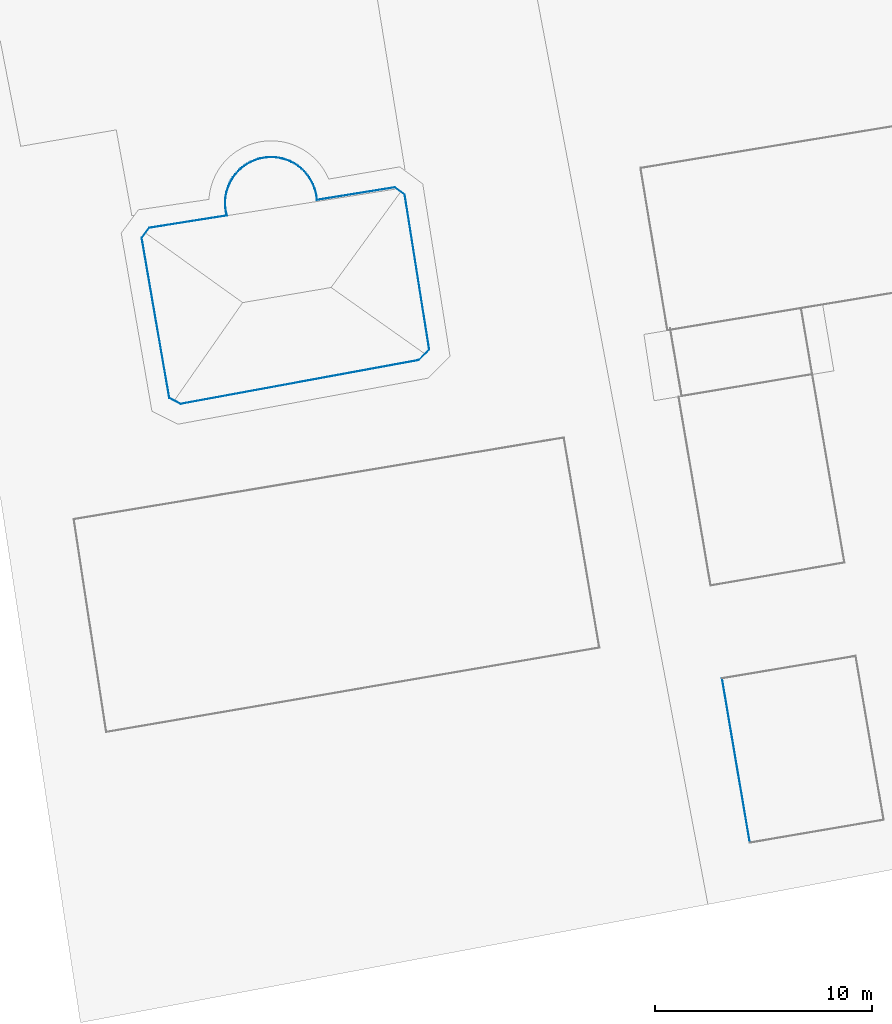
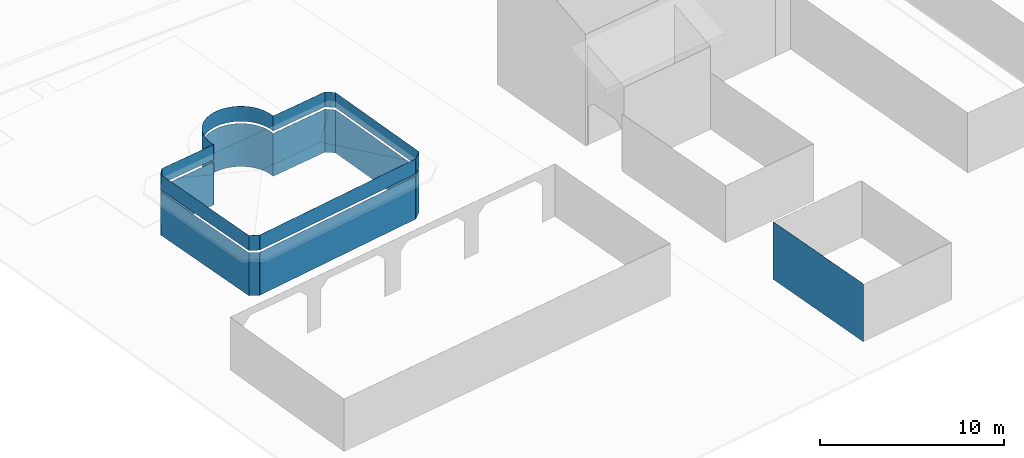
# One storey, part 18 of 75: 11 walls, 10 openings.
"""IFC2X3 building model written with IfcOpenShell, lengths in metres."""

from ifc_helpers import new_model, entity, si_unit, converted_unit, derived_unit, direction, frame, frame_2d, origin, place, context, subcontext, project, spatial, polyline, circle_curve, parameter, trimmed, segment, composite_curve, outline, extrude, clip, bounded_halfspace, material, layer, layer_set, layer_usage, type_object, element, save


model = new_model("IFC2X3")

# Units and contexts
model_context = context("Model", 3, precision=1e-05, world=origin(), true_north=direction((6.123031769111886e-17, 1.0)))
body_context = subcontext(model_context, "Body", "Model", "MODEL_VIEW")
ifc_project = project(units=[si_unit("LENGTHUNIT", "METRE"), si_unit("AREAUNIT", "SQUARE_METRE"), si_unit("VOLUMEUNIT", "CUBIC_METRE"), converted_unit("PLANEANGLEUNIT", "DEGREE", entity("IfcRatioMeasure", 0.017453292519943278), si_unit("PLANEANGLEUNIT", "RADIAN"), dimensions=[0, 0, 0, 0, 0, 0, 0]), si_unit("MASSUNIT", "GRAM", prefix="KILO"), derived_unit("MASSDENSITYUNIT", [(si_unit("MASSUNIT", "GRAM", prefix="KILO"), 1), (si_unit("LENGTHUNIT", "METRE"), -3)]), derived_unit("IONCONCENTRATIONUNIT", [(si_unit("MASSUNIT", "GRAM", prefix="KILO"), 1), (si_unit("LENGTHUNIT", "METRE"), -3)]), derived_unit("MOMENTOFINERTIAUNIT", [(si_unit("LENGTHUNIT", "METRE"), 4)]), si_unit("TIMEUNIT", "SECOND"), si_unit("FREQUENCYUNIT", "HERTZ"), si_unit("THERMODYNAMICTEMPERATUREUNIT", "DEGREE_CELSIUS"), derived_unit("THERMALTRANSMITTANCEUNIT", [(si_unit("MASSUNIT", "GRAM", prefix="KILO"), 1), (si_unit("THERMODYNAMICTEMPERATUREUNIT", "KELVIN"), -1), (si_unit("TIMEUNIT", "SECOND"), -3)]), derived_unit("THERMALCONDUCTANCEUNIT", [(si_unit("MASSUNIT", "GRAM", prefix="KILO"), 1), (si_unit("THERMODYNAMICTEMPERATUREUNIT", "KELVIN"), -1), (si_unit("TIMEUNIT", "SECOND"), -3), (si_unit("LENGTHUNIT", "METRE"), 1)]), derived_unit("VOLUMETRICFLOWRATEUNIT", [(si_unit("LENGTHUNIT", "METRE"), 3), (si_unit("TIMEUNIT", "SECOND"), -1)]), derived_unit("MASSFLOWRATEUNIT", [(si_unit("MASSUNIT", "GRAM", prefix="KILO"), 1), (si_unit("TIMEUNIT", "SECOND"), -1)]), derived_unit("ROTATIONALFREQUENCYUNIT", [(si_unit("TIMEUNIT", "SECOND"), -1)]), si_unit("ELECTRICCURRENTUNIT", "AMPERE"), si_unit("ELECTRICVOLTAGEUNIT", "VOLT"), si_unit("POWERUNIT", "WATT"), si_unit("FORCEUNIT", "NEWTON", prefix="KILO"), si_unit("ILLUMINANCEUNIT", "LUX"), si_unit("LUMINOUSFLUXUNIT", "LUMEN"), si_unit("LUMINOUSINTENSITYUNIT", "CANDELA"), derived_unit("USERDEFINED", [(si_unit("MASSUNIT", "GRAM", prefix="KILO"), -1), (si_unit("LENGTHUNIT", "METRE"), -2), (si_unit("TIMEUNIT", "SECOND"), 3), (si_unit("LUMINOUSFLUXUNIT", "LUMEN"), 1)]), derived_unit("USERDEFINED", [(si_unit("MASSUNIT", "GRAM", prefix="KILO"), 1), (si_unit("TIMEUNIT", "SECOND"), -3), (si_unit("LENGTHUNIT", "METRE"), 3), (si_unit("ELECTRICCURRENTUNIT", "AMPERE"), -2)]), derived_unit("SOUNDPOWERUNIT", [(si_unit("MASSUNIT", "GRAM", prefix="KILO"), 1), (si_unit("TIMEUNIT", "SECOND"), -3), (si_unit("LENGTHUNIT", "METRE"), 2)]), derived_unit("SOUNDPRESSUREUNIT", [(si_unit("MASSUNIT", "GRAM", prefix="KILO"), 1), (si_unit("LENGTHUNIT", "METRE"), -1), (si_unit("TIMEUNIT", "SECOND"), -2)]), derived_unit("LINEARVELOCITYUNIT", [(si_unit("LENGTHUNIT", "METRE"), 1), (si_unit("TIMEUNIT", "SECOND"), -1)]), si_unit("PRESSUREUNIT", "PASCAL"), derived_unit("USERDEFINED", [(si_unit("MASSUNIT", "GRAM", prefix="KILO"), 1), (si_unit("LENGTHUNIT", "METRE"), -2), (si_unit("TIMEUNIT", "SECOND"), -2)]), derived_unit("LINEARFORCEUNIT", [(si_unit("MASSUNIT", "GRAM", prefix="KILO"), 1), (si_unit("TIMEUNIT", "SECOND"), -2)]), derived_unit("PLANARFORCEUNIT", [(si_unit("MASSUNIT", "GRAM", prefix="KILO"), 1), (si_unit("LENGTHUNIT", "METRE"), -1), (si_unit("TIMEUNIT", "SECOND"), -2)]), derived_unit("SPECIFICHEATCAPACITYUNIT", [(si_unit("THERMODYNAMICTEMPERATUREUNIT", "KELVIN"), -1), (si_unit("LENGTHUNIT", "METRE"), 2), (si_unit("TIMEUNIT", "SECOND"), -2)]), derived_unit("HEATINGVALUEUNIT", [(si_unit("LENGTHUNIT", "METRE"), 2), (si_unit("TIMEUNIT", "SECOND"), -2)]), derived_unit("VAPORPERMEABILITYUNIT", [(si_unit("LENGTHUNIT", "METRE"), -1), (si_unit("TIMEUNIT", "SECOND"), 1)]), derived_unit("DYNAMICVISCOSITYUNIT", [(si_unit("MASSUNIT", "GRAM", prefix="KILO"), 1), (si_unit("TIMEUNIT", "SECOND"), -1), (si_unit("LENGTHUNIT", "METRE"), -1)]), derived_unit("THERMALEXPANSIONCOEFFICIENTUNIT", [(si_unit("THERMODYNAMICTEMPERATUREUNIT", "KELVIN"), -1)]), derived_unit("MODULUSOFELASTICITYUNIT", [(si_unit("MASSUNIT", "GRAM", prefix="KILO"), 1), (si_unit("LENGTHUNIT", "METRE"), -1), (si_unit("TIMEUNIT", "SECOND"), -2)]), derived_unit("ISOTHERMALMOISTURECAPACITYUNIT", [(si_unit("LENGTHUNIT", "METRE"), 3), (si_unit("MASSUNIT", "GRAM", prefix="KILO"), -1)]), derived_unit("MOISTUREDIFFUSIVITYUNIT", [(si_unit("TIMEUNIT", "SECOND"), -1), (si_unit("LENGTHUNIT", "METRE"), 2)])], contexts=[model_context])

# Site, building, storey
site_placement = place(None, origin())
site = spatial("IfcSite", under=ifc_project, at=site_placement, Name="Default", CompositionType="ELEMENT")
building_placement = place(site_placement, origin())
building = spatial("IfcBuilding", under=site, at=building_placement, Name="Projeto", CompositionType="ELEMENT")
storey_placement = place(building_placement, origin())
storey = spatial("IfcBuildingStorey", under=building, at=storey_placement, Name="Nível 1", CompositionType="ELEMENT", Elevation=0.0)

# Wall
ifc_material = material(Name="Metal")
ifc_layer = layer(ifc_material, 0.01)
ifc_layer_set = layer_set([ifc_layer], Name="Parede básica:JA_Aluminio")
ifc_layer_usage_1 = layer_usage(ifc_layer_set, "AXIS2", "NEGATIVE", 0.005)
wall_type = type_object("IfcWallType", Name="Parede básica:JA_Aluminio", PredefinedType="STANDARD", material=ifc_layer_set)
wall_1_placement = place(storey_placement, frame((-44.55042520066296, -77.18336370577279, -0.1), z_axis=(0.0, 0.0, 1.0), x_axis=(-0.16684340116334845, 0.9859834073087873, 0.0)))
element("IfcWallStandardCase", 1, at=wall_1_placement, inside=storey, type_object=wall_type, material=ifc_layer_usage_1, Name="Parede básica:JA_Aluminio", ObjectType="Parede básica:JA_Aluminio", context=body_context, shape_type="Clipping", body=[
    clip(clip(clip(extrude(outline(polyline([(7.685062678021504, -0.004999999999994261), (7.685090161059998, 0.005000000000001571), (0.0, 0.0049999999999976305), (1.9177699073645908e-05, -0.0049999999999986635), (0.010019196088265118, -0.004999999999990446), (7.675062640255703, -0.0049999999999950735), (7.685062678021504, -0.004999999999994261)])), origin(), (0.0, 0.0, 1.0), 3.8479557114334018), bounded_halfspace(frame((0.1519078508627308, -0.0049999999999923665, 3.847955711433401), z_axis=(0.004235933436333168, 0.25878437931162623, 0.9659258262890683), x_axis=(-0.9998660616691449, 0.01636639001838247, 0.0)), False, frame((0.1519078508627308, -0.0049999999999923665, 3.847955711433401)), polyline([(0.0, 0.0), (7.4939146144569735, 0.0), (7.504107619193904, 0.009999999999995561), (-0.009856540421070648, 0.009999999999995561), (0.0, 0.0)]))), bounded_halfspace(frame((1.9177699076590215e-05, -0.005000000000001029, 3.8072573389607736), z_axis=(-0.25881856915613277, -0.0004963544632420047, 0.9659258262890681), x_axis=(0.0019177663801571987, -0.9999981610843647, 0.0)), False, frame((1.9177699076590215e-05, -0.005000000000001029, 3.8072573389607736)), polyline([(0.0, 0.0), (0.010000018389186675, 0.0), (0.1518886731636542, 0.0), (0.14203213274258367, 0.010000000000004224), (-1.917769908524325e-05, 0.009999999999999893), (0.0, 0.0)]))), bounded_halfspace(frame((7.645822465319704, -0.004999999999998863, 3.815092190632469), z_axis=(0.25881806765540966, -0.0007113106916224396, 0.9659258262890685), x_axis=(0.00274829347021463, 0.9999962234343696, 0.0)), False, frame((7.645822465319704, -0.004999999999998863, 3.815092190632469)), polyline([(0.0, 0.0), (0.02924017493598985, 0.0), (0.03924021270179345, 0.0), (0.03926769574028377, 0.009999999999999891), (0.010193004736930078, 0.010000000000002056), (0.0, 0.0)]))),
])

# Wall, opening
wall_2_placement = place(storey_placement, frame((-72.54206846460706, -49.344328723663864, -0.1), z_axis=(0.0, 0.0, 1.0), x_axis=(0.16991333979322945, -0.9854590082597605, 0.0)))
wall_2 = element("IfcWallStandardCase", 2, at=wall_2_placement, inside=storey, type_object=wall_type, material=ifc_layer_usage_1, Name="Parede básica:JA_Aluminio", ObjectType="Parede básica:JA_Aluminio", context=body_context, shape_type="SweptSolid", body=[
    extrude(outline(polyline([(7.486000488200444, -0.005000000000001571), (7.493432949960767, 0.004999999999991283), (7.480973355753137, 0.0049999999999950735), (0.0, 0.004999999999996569), (0.009579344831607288, -0.00500000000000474), (7.486000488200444, -0.005000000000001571)])), origin(), (0.0, 0.0, 1.0), 3.9999999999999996),
])
opening_1_placement = place(storey_placement, frame((-72.54206846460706, -49.344328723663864, -0.1), z_axis=(0.0, 0.0, 1.0), x_axis=(0.16991333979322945, -0.9854590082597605, 0.0)))
element("IfcOpeningElement", 3, at=opening_1_placement, cuts=wall_2, Name="Parede básica:JA_Aluminio:1", ObjectType="Opening", context=body_context, shape_type="SweptSolid", body=[
    extrude(outline(polyline([(-4.484417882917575, -0.005999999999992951), (2.992003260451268, -0.005999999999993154), (2.999435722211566, 0.004000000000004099), (2.9869761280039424, 0.0040000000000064), (-4.493997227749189, 0.003999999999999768), (-4.484417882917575, -0.005999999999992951)])), frame((4.493997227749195, 0.0009999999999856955, 2.8499999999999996)), (0.0, 0.0, 1.0), 0.14999999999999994),
])

wall_3_placement = place(storey_placement, frame((-71.26828139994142, -56.720133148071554, -0.1), z_axis=(0.0, 0.0, 1.0), x_axis=(0.8922814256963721, -0.45147963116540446, 0.0)))
wall_3 = element("IfcWallStandardCase", 4, at=wall_3_placement, inside=storey, type_object=wall_type, material=ifc_layer_usage_1, Name="Parede básica:JA_Aluminio", ObjectType="Parede básica:JA_Aluminio", context=body_context, shape_type="SweptSolid", body=[
    extrude(outline(polyline([(0.5788422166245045, -0.00500000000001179), (0.5919855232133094, 0.0049999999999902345), (0.575470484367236, 0.005000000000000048), (0.0, 0.004999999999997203), (0.0074324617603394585, -0.005000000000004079), (0.5788422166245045, -0.00500000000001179)])), origin(), (0.0, 0.0, 1.0), 3.9999999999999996),
])
opening_2_placement = place(storey_placement, frame((-71.26828139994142, -56.720133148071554, -0.1), z_axis=(0.0, 0.0, 1.0), x_axis=(0.8922814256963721, -0.45147963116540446, 0.0)))
element("IfcOpeningElement", 5, at=opening_2_placement, cuts=wall_3, Name="Parede básica:JA_Aluminio:1", ObjectType="Opening", context=body_context, shape_type="SweptSolid", body=[
    extrude(outline(polyline([(-0.2871325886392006, -0.005000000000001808), (0.2842771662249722, -0.005000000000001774), (0.29742047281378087, 0.004999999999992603), (-0.2945650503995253, 0.004999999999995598), (-0.2871325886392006, -0.005000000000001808)])), frame((0.29456505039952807, 0.0, 2.8499999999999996)), (0.0, 0.0, 1.0), 0.14999999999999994),
])

wall_4_placement = place(storey_placement, frame((-59.799987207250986, -54.97437339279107, -0.1), z_axis=(0.0, 0.0, 1.0), x_axis=(0.7073515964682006, 0.7068618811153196, 0.0)))
wall_4 = element("IfcWallStandardCase", 6, at=wall_4_placement, inside=storey, type_object=wall_type, material=ifc_layer_usage_1, Name="Parede básica:JA_Aluminio", ObjectType="Parede básica:JA_Aluminio", context=body_context, shape_type="SweptSolid", body=[
    extrude(outline(polyline([(0.6981471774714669, -0.0050000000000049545), (0.7054094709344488, 0.004999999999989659), (0.6930506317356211, 0.004999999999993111), (0.017631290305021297, 0.004999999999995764), (0.0, 0.004999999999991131), (0.014521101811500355, -0.005000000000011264), (0.6981471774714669, -0.0050000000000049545)])), origin(), (0.0, 0.0, 1.0), 3.9999999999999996),
])
opening_3_placement = place(storey_placement, frame((-59.799987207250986, -54.97437339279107, -0.1), z_axis=(0.0, 0.0, 1.0), x_axis=(0.7073515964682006, 0.7068618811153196, 0.0)))
element("IfcOpeningElement", 7, at=opening_3_placement, cuts=wall_4, Name="Parede básica:JA_Aluminio:1", ObjectType="Opening", context=body_context, shape_type="SweptSolid", body=[
    extrude(outline(polyline([(-0.34027217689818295, -0.006666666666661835), (0.34335389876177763, -0.00666666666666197), (0.3506161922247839, 0.003333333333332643), (0.338257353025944, 0.003333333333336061), (-0.3371619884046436, 0.003333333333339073), (-0.35479327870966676, 0.0033333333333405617), (-0.34027217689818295, -0.006666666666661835)])), frame((0.35479327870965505, 0.0016666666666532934, 2.849999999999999)), (0.0, 0.0, 1.0), 0.14999999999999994),
])

wall_5_placement = place(storey_placement, frame((-59.30835249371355, -54.48016408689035, -0.1), z_axis=(0.0, 0.0, 1.0), x_axis=(-0.1562949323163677, 0.9877104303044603, 0.0)))
wall_5 = element("IfcWallStandardCase", 8, at=wall_5_placement, inside=storey, type_object=wall_type, material=ifc_layer_usage_1, Name="Parede básica:JA_Aluminio", ObjectType="Parede básica:JA_Aluminio", context=body_context, shape_type="SweptSolid", body=[
    extrude(outline(polyline([(7.217157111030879, -0.005000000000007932), (7.22735672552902, 0.004999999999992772), (7.21307274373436, 0.004999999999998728), (0.0, 0.005000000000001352), (0.007262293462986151, -0.005000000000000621), (7.217157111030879, -0.005000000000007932)])), origin(), (0.0, 0.0, 1.0), 3.9999999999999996),
])
opening_4_placement = place(storey_placement, frame((-59.30835249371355, -54.48016408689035, -0.1), z_axis=(0.0, 0.0, 1.0), x_axis=(-0.1562949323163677, 0.9877104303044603, 0.0)))
element("IfcOpeningElement", 9, at=opening_4_placement, cuts=wall_5, Name="Parede básica:JA_Aluminio:1", ObjectType="Opening", context=body_context, shape_type="SweptSolid", body=[
    extrude(outline(polyline([(-3.6056817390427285, -0.005000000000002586), (3.6042130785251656, -0.005000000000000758), (3.614412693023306, 0.004999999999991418), (-3.612944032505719, 0.0049999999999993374), (-3.6056817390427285, -0.005000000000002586)])), frame((3.612944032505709, 0.0, 2.8499999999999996)), (0.0, 0.0, 1.0), 0.14999999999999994),
])

wall_6_placement = place(storey_placement, frame((-60.43767844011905, -47.352502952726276, -0.1), z_axis=(0.0, 0.0, 1.0), x_axis=(-0.8030850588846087, 0.5958644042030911, 0.0)))
wall_6 = element("IfcWallStandardCase", 10, at=wall_6_placement, inside=storey, type_object=wall_type, material=ifc_layer_usage_1, Name="Parede básica:JA_Aluminio", ObjectType="Parede básica:JA_Aluminio", context=body_context, shape_type="SweptSolid", body=[
    extrude(outline(polyline([(0.5725199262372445, -0.004999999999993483), (0.5822630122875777, 0.005000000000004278), (0.5683013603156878, 0.005000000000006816), (0.0, 0.005000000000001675), (0.01019961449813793, -0.004999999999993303), (0.5725199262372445, -0.004999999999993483)])), origin(), (0.0, 0.0, 1.0), 3.9999999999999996),
])
opening_5_placement = place(storey_placement, frame((-60.43767844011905, -47.352502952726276, -0.1), z_axis=(0.0, 0.0, 1.0), x_axis=(-0.8030850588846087, 0.5958644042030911, 0.0)))
element("IfcOpeningElement", 11, at=opening_5_placement, cuts=wall_6, Name="Parede básica:JA_Aluminio:1", ObjectType="Opening", context=body_context, shape_type="SweptSolid", body=[
    extrude(outline(polyline([(-0.281046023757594, -0.005000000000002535), (0.2812742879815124, -0.005000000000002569), (0.2910173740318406, 0.005000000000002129), (-0.2912456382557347, 0.004999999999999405), (-0.281046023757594, -0.005000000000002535)])), frame((0.2912456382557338, 0.0, 2.8499999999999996)), (0.0, 0.0, 1.0), 0.14999999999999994),
])

wall_7_placement = place(storey_placement, frame((-60.897849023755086, -47.01295174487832, -0.1), z_axis=(0.0, 0.0, 1.0), x_axis=(-0.9872163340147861, -0.15938604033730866, 0.0)))
wall_7 = element("IfcWallStandardCase", 12, at=wall_7_placement, inside=storey, type_object=wall_type, material=ifc_layer_usage_1, Name="Parede básica:JA_Aluminio", ObjectType="Parede básica:JA_Aluminio", context=body_context, shape_type="SweptSolid", body=[
    extrude(outline(composite_curve([segment(trimmed(circle_curve(frame_2d((5.732285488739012, -0.18763994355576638), x_axis=(-0.9872163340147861, 0.15938604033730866)), 2.110618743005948), [parameter(3.934485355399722)], [parameter(4.2070291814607)], True, "PARAMETER"), False, "CONTINUOUS"), segment(polyline([(3.6304764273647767, 0.004999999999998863), (0.0, 0.004999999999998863)]), True, "CONTINUOUS"), segment(polyline([(0.0, 0.004999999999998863), (0.00974308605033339, -0.005000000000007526)]), True, "CONTINUOUS"), segment(polyline([(0.00974308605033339, -0.005000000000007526), (3.619546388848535, -0.004999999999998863)]), True, "CONTINUOUS"), segment(polyline([(3.619546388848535, -0.004999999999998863), (3.629583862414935, -0.004999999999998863)]), True, "CONTINUOUS")], self_intersect=False)), origin(), (0.0, 0.0, 1.0), 3.9999999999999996),
])
opening_6_placement = place(storey_placement, frame((-60.897849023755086, -47.01295174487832, -0.1), z_axis=(0.0, 0.0, 1.0), x_axis=(-0.9872163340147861, -0.15938604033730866, 0.0)))
element("IfcOpeningElement", 13, at=opening_6_placement, cuts=wall_7, Name="Parede básica:JA_Aluminio:1", ObjectType="Opening", context=body_context, shape_type="SweptSolid", body=[
    extrude(outline(composite_curve([segment(polyline([(-1.8077077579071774, -0.0049999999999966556), (1.8121330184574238, -0.004999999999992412)]), True, "CONTINUOUS"), segment(trimmed(circle_curve(frame_2d((3.9148346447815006, -0.1876399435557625), x_axis=(-0.9872163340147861, 0.15938604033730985)), 2.110618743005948), [parameter(3.934485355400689)], [parameter(4.207029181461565)], True, "PARAMETER"), False, "CONTINUOUS"), segment(polyline([(1.8130255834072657, 0.005000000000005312), (-1.8174508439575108, 0.005000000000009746)]), True, "CONTINUOUS"), segment(polyline([(-1.8174508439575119, 0.0050000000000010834), (-1.8077077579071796, -0.005000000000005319)]), True, "CONTINUOUS")], self_intersect=False)), frame((1.8174508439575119, 0.0, 2.8499999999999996)), (0.0, 0.0, 1.0), 0.1499999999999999),
])

wall_8_placement = place(storey_placement, frame((-64.47684390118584, -47.58615386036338, -0.1)))
wall_8 = element("IfcWallStandardCase", 14, at=wall_8_placement, inside=storey, type_object=wall_type, material=ifc_layer_usage_1, Name="Parede básica:JA_Aluminio", ObjectType="Parede básica:JA_Aluminio", context=body_context, shape_type="SweptSolid", body=[
    extrude(outline(composite_curve([segment(polyline([(-0.004986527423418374, -0.00036680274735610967), (0.004922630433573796, 0.001233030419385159)]), True, "CONTINUOUS"), segment(trimmed(circle_curve(frame_2d((-2.1099181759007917, -0.1552029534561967), x_axis=(1.0, 0.0)), 2.1206187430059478), [parameter(4.230496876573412)], [parameter(195.46773947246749)], True, "PARAMETER"), True, "CONTINUOUS"), segment(trimmed(circle_curve(frame_2d((-2.1099181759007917, -0.1552029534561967), x_axis=(1.0, 0.0)), 2.1206187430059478), [parameter(195.46773947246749)], [parameter(195.73974802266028)], True, "PARAMETER"), True, "CONTINUOUS"), segment(polyline([(-4.151021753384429, -0.7304594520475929), (-4.141074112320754, -0.7288901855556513)]), True, "CONTINUOUS"), segment(trimmed(circle_curve(frame_2d((-2.1099181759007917, -0.1552029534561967), x_axis=(1.0, 0.0)), 2.110618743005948), [parameter(4.207029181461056)], [parameter(195.77199945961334)], True, "PARAMETER"), False, "CONTINUOUS")], self_intersect=False)), origin(), (0.0, 0.0, 1.0), 3.9999999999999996),
])
opening_7_placement = place(storey_placement, frame((-64.47684390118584, -47.58615386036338, -0.1)))
element("IfcOpeningElement", 15, at=opening_7_placement, cuts=wall_8, Name="Parede básica:JA_Aluminio:1", ObjectType="Opening", context=body_context, shape_type="SweptSolid", body=[
    extrude(outline(composite_curve([segment(polyline([(-2.0680341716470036, 0.36426933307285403), (-2.0779818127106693, 0.3658385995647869)]), True, "CONTINUOUS"), segment(trimmed(circle_curve(frame_2d((-0.036878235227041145, -0.20941789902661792), x_axis=(1.0, 0.0)), 2.1206187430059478), [parameter(164.2602519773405)], [parameter(355.7695031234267)], True, "PARAMETER"), True, "CONTINUOUS"), segment(polyline([(2.0779625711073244, -0.36585388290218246), (2.068053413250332, -0.3642540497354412)]), True, "CONTINUOUS"), segment(trimmed(circle_curve(frame_2d((-0.036878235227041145, -0.20941789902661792), x_axis=(1.0, 0.0)), 2.110618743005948), [parameter(164.22800054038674)], [parameter(355.7929708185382)], True, "PARAMETER"), False, "CONTINUOUS")], self_intersect=False)), frame((-2.0730399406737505, -0.3646208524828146, 2.8499999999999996), z_axis=(0.0, 0.0, -1.0), x_axis=(1.0, 0.0, 0.0)), (0.0, 0.0, -1.0), 0.14999999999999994),
])

wall_9_placement = place(storey_placement, frame((-68.6286447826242, -48.31167438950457, -0.1), z_axis=(0.0, 0.0, 1.0), x_axis=(-0.9877845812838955, -0.1558256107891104, 0.0)))
wall_9 = element("IfcWallStandardCase", 16, at=wall_9_placement, inside=storey, type_object=wall_type, material=ifc_layer_usage_1, Name="Parede básica:JA_Aluminio", ObjectType="Parede básica:JA_Aluminio", context=body_context, shape_type="SweptSolid", body=[
    extrude(outline(composite_curve([segment(polyline([(3.6145980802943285, -0.005000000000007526), (3.624743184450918, 0.005000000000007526)]), True, "CONTINUOUS"), segment(polyline([(3.624743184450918, 0.005000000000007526), (3.610498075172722, 0.004999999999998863)]), True, "CONTINUOUS"), segment(polyline([(3.610498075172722, 0.004999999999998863), (0.0, 0.005000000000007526)]), True, "CONTINUOUS"), segment(trimmed(circle_curve(frame_2d((-2.1058103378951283, -0.24517328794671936), x_axis=(-0.9877845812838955, 0.1558256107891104)), 2.1206187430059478), [parameter(195.46773947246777)], [parameter(195.73974802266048)], True, "PARAMETER"), False, "CONTINUOUS"), segment(polyline([(0.0011639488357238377, -0.004999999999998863), (3.6145980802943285, -0.005000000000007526)]), True, "CONTINUOUS")], self_intersect=False)), origin(), (0.0, 0.0, 1.0), 3.9999999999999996),
])
opening_8_placement = place(storey_placement, frame((-68.6286447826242, -48.31167438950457, -0.1), z_axis=(0.0, 0.0, 1.0), x_axis=(-0.9877845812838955, -0.1558256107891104, 0.0)))
element("IfcOpeningElement", 17, at=opening_8_placement, cuts=wall_9, Name="Parede básica:JA_Aluminio:1", ObjectType="Opening", context=body_context, shape_type="SweptSolid", body=[
    extrude(outline(composite_curve([segment(polyline([(-1.8089623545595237, -0.0049999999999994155), (1.8044717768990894, -0.005000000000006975)]), True, "CONTINUOUS"), segment(polyline([(1.8044717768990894, -0.005000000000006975), (1.814616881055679, 0.0050000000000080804)]), True, "CONTINUOUS"), segment(polyline([(1.814616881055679, 0.0050000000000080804), (-1.8101263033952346, 0.005000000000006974)]), True, "CONTINUOUS"), segment(trimmed(circle_curve(frame_2d((-3.9159366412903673, -0.24517328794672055), x_axis=(-0.9877845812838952, 0.15582561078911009)), 2.1206187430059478), [parameter(195.46773947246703)], [parameter(195.73974802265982)], True, "PARAMETER"), False, "CONTINUOUS")], self_intersect=False)), frame((1.8101263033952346, 0.0, 2.8499999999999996)), (0.0, 0.0, 1.0), 0.1499999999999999),
])

wall_10_placement = place(storey_placement, frame((-72.19828196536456, -48.87625091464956, -0.1), z_axis=(0.0, 0.0, 1.0), x_axis=(-0.5940931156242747, -0.8043962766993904, 0.0)))
wall_10 = element("IfcWallStandardCase", 18, at=wall_10_placement, inside=storey, type_object=wall_type, material=ifc_layer_usage_1, Name="Parede básica:JA_Aluminio", ObjectType="Parede básica:JA_Aluminio", context=body_context, shape_type="SweptSolid", body=[
    extrude(outline(polyline([(0.5814191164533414, -0.004999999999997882), (0.5909984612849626, 0.005000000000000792), (0.577150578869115, 0.005000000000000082), (0.0, 0.005000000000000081), (0.010145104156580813, -0.005000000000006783), (0.5814191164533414, -0.004999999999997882)])), origin(), (0.0, 0.0, 1.0), 3.9999999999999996),
])
opening_9_placement = place(storey_placement, frame((-72.19828196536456, -48.87625091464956, -0.1), z_axis=(0.0, 0.0, 1.0), x_axis=(-0.5940931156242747, -0.8043962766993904, 0.0)))
element("IfcOpeningElement", 19, at=opening_9_placement, cuts=wall_10, Name="Parede básica:JA_Aluminio:1", ObjectType="Opening", context=body_context, shape_type="SweptSolid", body=[
    extrude(outline(polyline([(-0.3417975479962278, -0.005999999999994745), (0.22947646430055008, -0.005999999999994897), (0.23905580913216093, 0.004000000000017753), (0.22520792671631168, 0.004000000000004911), (-0.3519426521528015, 0.004000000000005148), (-0.3417975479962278, -0.005999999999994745)])), frame((0.3519426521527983, 0.0009999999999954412, 2.8499999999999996)), (0.0, 0.0, 1.0), 0.14999999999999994),
])

ifc_layer_usage_2 = layer_usage(ifc_layer_set, "AXIS2", "POSITIVE", -0.005)
wall_11_placement = place(storey_placement, frame((-59.790145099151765, -54.96329118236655, -0.1), z_axis=(0.0, 0.0, 1.0), x_axis=(-0.9834869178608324, -0.18097923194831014, 0.0)))
wall_11 = element("IfcWallStandardCase", 20, at=wall_11_placement, inside=storey, type_object=wall_type, material=ifc_layer_usage_2, Name="Parede básica:JA_Aluminio", ObjectType="Parede básica:JA_Aluminio", context=body_context, shape_type="SweptSolid", body=[
    extrude(outline(polyline([(11.14553959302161, -0.005000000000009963), (11.132396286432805, 0.0050000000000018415), (0.01452110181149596, 0.004999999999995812), (0.0, -0.005000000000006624), (11.14553959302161, -0.005000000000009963)])), origin(), (0.0, 0.0, 1.0), 3.9999999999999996),
])
opening_10_placement = place(storey_placement, frame((-59.790145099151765, -54.96329118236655, -0.1), z_axis=(0.0, 0.0, 1.0), x_axis=(-0.9834869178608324, -0.18097923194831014, 0.0)))
element("IfcOpeningElement", 21, at=opening_10_placement, cuts=wall_11, Name="Parede básica:JA_Aluminio:1", ObjectType="Opening", context=body_context, shape_type="SweptSolid", body=[
    extrude(outline(polyline([(-5.57311424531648, -0.005000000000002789), (5.572425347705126, -0.00499999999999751), (5.559282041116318, 0.005000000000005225), (-5.5585931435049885, 0.004999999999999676), (-5.57311424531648, -0.005000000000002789)])), frame((5.573114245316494, 0.0, 2.8499999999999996)), (0.0, 0.0, 1.0), 0.14999999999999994),
])

save(model, "model.ifc")
